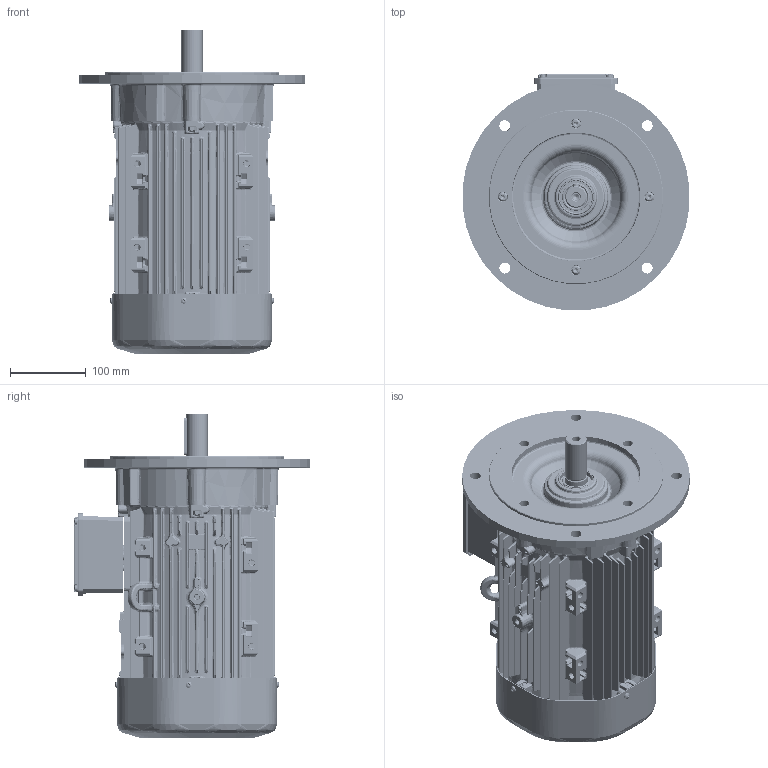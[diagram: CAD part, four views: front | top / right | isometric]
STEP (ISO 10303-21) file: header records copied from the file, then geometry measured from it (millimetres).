
FILE_DESCRIPTION(/* description */ (''),/* implementation_level */ '2;1');
FILE_NAME(/* name */ 'OUTLOOK VIEW QH112 FA B5 - BIGGER FF265 SPL.stp',/* time_stamp */ '2021-09-21T15:00:17+03:00',/* author */ (''),/* organization */ (''),/* preprocessor_version */ 'ST-DEVELOPER v16',/* originating_system */ 'SIEMENS PLM Software NX 11.0',/* authorisation */ '');
FILE_SCHEMA (('AUTOMOTIVE_DESIGN { 1 0 10303 214 3 1 1 1 }'));
Products named in the file (1): 260652D491E0rx8x
Bounding box: 298.86 x 311.93 x 427.6 mm (x, y, z)
Volume: 2916224.6 mm3; surface area: 1278519.2 mm2
Topology: 65 solids, 71 shells, 11478 faces, 27100 edges, 15385 vertices
Faces by surface type: cylinder 3708, bspline 3546, plane 2200, sphere 860, torus 582, cone 572, extrusion 10
Full cylindrical faces by diameter (mm): 2 x14, 3 x2, 3.3 x4, 3.7 x4, 3.985 x1, 4 x9, 4.22 x1, 4.6 x3, 4.722 x2, 5 x11, 6 x8, 6.4 x8, 6.6 x4, 8 x9, 8.5 x1, 10 x8, 10.5 x1, 12 x8, 12.5 x4, 14.5 x4, 23.38 x2, 24.4 x1, 25 x3, 27.4 x1, 28 x1, 28.6 x1, 29.4 x2, 30 x5, 30.2 x1, 30.5 x1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
Entity records: 396136 total; most frequent: CARTESIAN_POINT 155941, ORIENTED_EDGE 51808, DIRECTION 47359, EDGE_CURVE 25904, AXIS2_PLACEMENT_3D 19650, VERTEX_POINT 15205, EDGE_LOOP 12557, ADVANCED_FACE 11471
